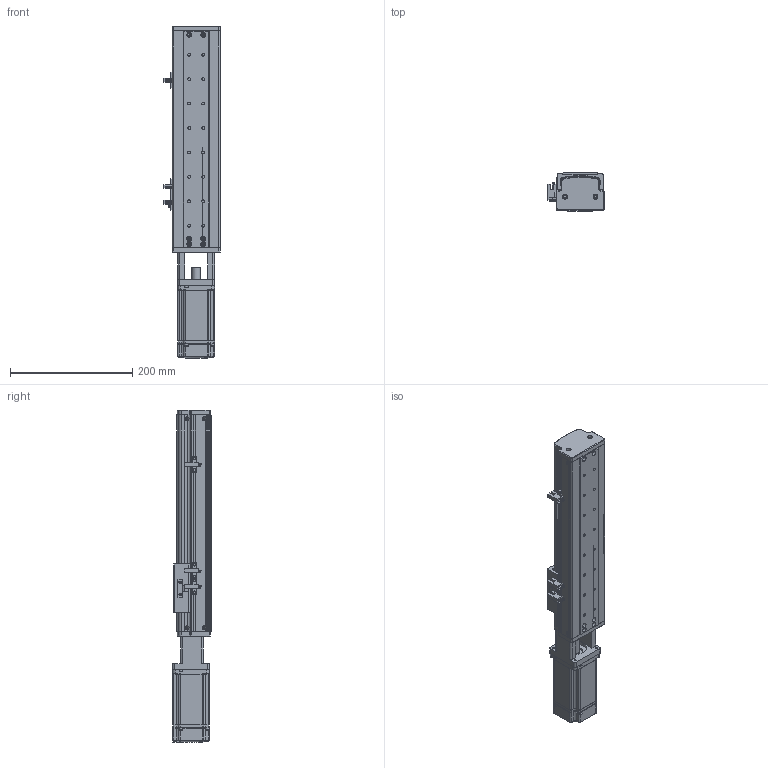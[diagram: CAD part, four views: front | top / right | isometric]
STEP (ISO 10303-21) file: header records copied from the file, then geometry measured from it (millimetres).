
FILE_DESCRIPTION (( 'STEP AP214' ), '1' );
FILE_NAME ('KSD75S-S200-MT-CM.STEP', '2019-10-18T07:30:29', ( '微软用户' ), ( '微软中国' ), 'SwSTEP 2.0', 'SolidWorks 2014', '' );
FILE_SCHEMA (( 'AUTOMOTIVE_DESIGN' ));
Length unit declared in the file: millimetre
Products named in the file (12): KSD75S-S200-MT-CM; MHMD042G1CA_2_03; 覜茼え100遵圉猾敕; U倰嫖萇EEㄜSX672; 綴傷啣 ; 100遵鎮湛假蚾啣1 ; ヶ傷啣; 75裔啣-200俴最; 75遵耀郪耜啣-200俴最; 75遵賑雄釱; MGW15H賑寢200俴最 ; MGW15H賑寢200俴最
Assembly tree (14 placements, depth 3):
  KSD75S-S200-MT-CM
    MGW15H賑寢200俴最 
      MGW15H賑寢200俴最
    75遵賑雄釱
    75遵耀郪耜啣-200俴最  x2
    75裔啣-200俴最
    ヶ傷啣
    100遵鎮湛假蚾啣1 
    綴傷啣 
    U倰嫖萇EEㄜSX672  x3
    覜茼え100遵圉猾敕
    MHMD042G1CA_2_03
Bounding box: 91.7 x 63 x 543.5 mm (x, y, z)
Volume: 581523.5 mm3; surface area: 361487.9 mm2
Topology: 12 solids, 13 shells, 1356 faces, 3861 edges, 2515 vertices
Faces by surface type: cylinder 620, plane 589, cone 129, bspline 18
Entity records: 43664 total; most frequent: CARTESIAN_POINT 8347, DIRECTION 6373, ORIENTED_EDGE 6002, EDGE_CURVE 3072, AXIS2_PLACEMENT_3D 2320, VERTEX_POINT 2033, LINE 1733, VECTOR 1733
